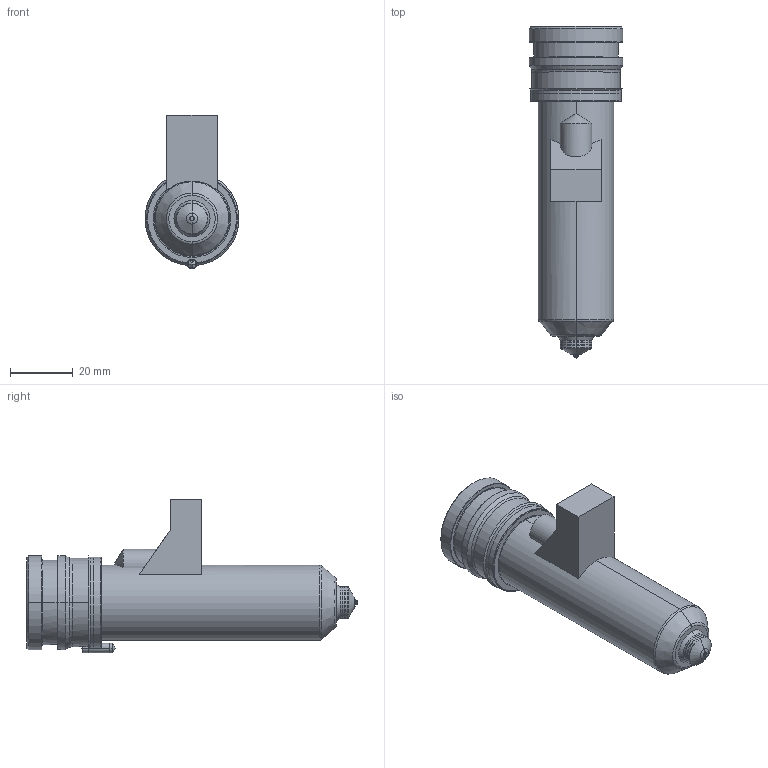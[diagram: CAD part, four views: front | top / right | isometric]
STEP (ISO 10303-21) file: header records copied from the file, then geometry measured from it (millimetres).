
FILE_DESCRIPTION((''),'2;1');
FILE_NAME('MPN-10-29-VSA10-086-M','2026-02-05T13:00:31',('UPTIO'),('Thermoplay S.p.A.'),'CREO PARAMETRIC BY PTC INC, 2023494','CREO PARAMETRIC BY PTC INC, 2023494','');
FILE_SCHEMA(('CONFIG_CONTROL_DESIGN','SHAPE_APPEARANCE_LAYERS_GROUPS'));
Length unit declared in the file: millimetre
Products named in the file (1): MPN-10-29-VSA10-086-M
Bounding box: 30 x 106 x 49 mm (x, y, z)
Volume: 34102.1 mm3; surface area: 35036.5 mm2
Topology: 3 solids, 5 shells, 546 faces, 1379 edges, 839 vertices
Faces by surface type: cylinder 181, plane 145, bspline 71, torus 69, cone 68, sphere 8, extrusion 4
Entity records: 27277 total; most frequent: CARTESIAN_POINT 11413, ORIENTED_EDGE 2744, DIRECTION 2618, EDGE_CURVE 1372, AXIS2_PLACEMENT_3D 1038, VERTEX_POINT 839, EDGE_LOOP 575, CIRCLE 566
